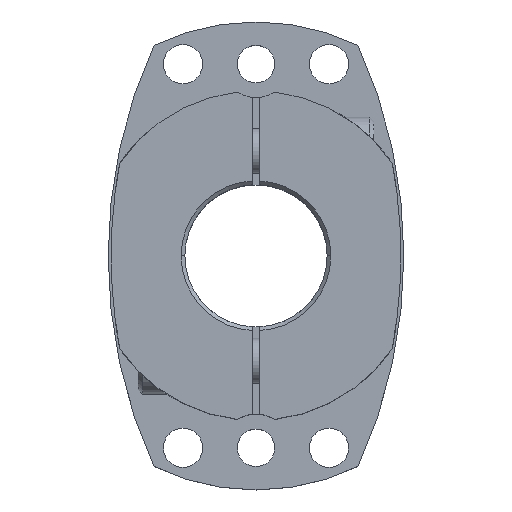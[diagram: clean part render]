
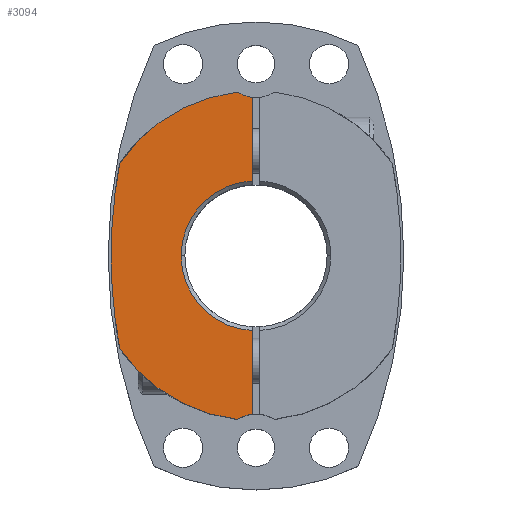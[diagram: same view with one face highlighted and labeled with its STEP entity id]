
A CAD part, top view. The second image highlights one B-rep face of the part: STEP entity #3094.
In plain terms, the highlighted planar face has unit normal (0, 0, 1).
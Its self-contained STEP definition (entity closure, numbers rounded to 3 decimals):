
#412=CARTESIAN_POINT('',(-20.,0.,36.0));
#413=VERTEX_POINT('',#412);
#421=CARTESIAN_POINT('',(-1.,19.975,36.0));
#422=VERTEX_POINT('',#421);
#436=CARTESIAN_POINT('',(0.,0.,36.0));
#437=DIRECTION('',(0.0,0.0,1.0));
#438=DIRECTION('',(-1.0,0.0,0.0));
#439=AXIS2_PLACEMENT_3D('',#436,#437,#438);
#440=CIRCLE('',#439,20.0);
#441=EDGE_CURVE('',#422,#413,#440,.T.);
#451=CARTESIAN_POINT('',(-38.7,0.,36.0));
#452=VERTEX_POINT('',#451);
#461=CARTESIAN_POINT('',(-36.405,24.712,36.0));
#462=VERTEX_POINT('',#461);
#463=CARTESIAN_POINT('',(95.5,0.,36.0));
#464=DIRECTION('',(0.0,0.0,-1.0));
#465=DIRECTION('',(1.0,0.0,0.0));
#466=AXIS2_PLACEMENT_3D('',#463,#464,#465);
#467=CIRCLE('',#466,134.2);
#468=EDGE_CURVE('',#452,#462,#467,.T.);
#2005=CARTESIAN_POINT('',(-4.933,-43.723,36.0));
#2006=VERTEX_POINT('',#2005);
#2013=CARTESIAN_POINT('',(-36.405,-24.712,36.0));
#2014=VERTEX_POINT('',#2013);
#2015=CARTESIAN_POINT('',(0.,0.,36.0));
#2016=DIRECTION('',(0.0,0.0,-1.0));
#2017=DIRECTION('',(1.0,0.0,0.0));
#2018=AXIS2_PLACEMENT_3D('',#2015,#2016,#2017);
#2019=CIRCLE('',#2018,44.);
#2020=EDGE_CURVE('',#2006,#2014,#2019,.T.);
#2654=CARTESIAN_POINT('',(95.5,0.,36.0));
#2655=DIRECTION('',(0.0,0.0,-1.0));
#2656=DIRECTION('',(1.0,0.0,0.0));
#2657=AXIS2_PLACEMENT_3D('',#2654,#2655,#2656);
#2658=CIRCLE('',#2657,134.2);
#2659=EDGE_CURVE('',#2014,#452,#2658,.T.);
#2704=CARTESIAN_POINT('',(-1.,42.306,36.0));
#2705=VERTEX_POINT('',#2704);
#2721=CARTESIAN_POINT('',(-4.933,43.723,36.0));
#2722=VERTEX_POINT('',#2721);
#2729=CARTESIAN_POINT('',(0.,51.25,36.0));
#2730=DIRECTION('',(0.0,0.0,-1.0));
#2731=DIRECTION('',(1.0,0.0,0.0));
#2732=AXIS2_PLACEMENT_3D('',#2729,#2730,#2731);
#2733=CIRCLE('',#2732,9.0);
#2734=EDGE_CURVE('',#2705,#2722,#2733,.T.);
#2796=CARTESIAN_POINT('',(-1.,-42.306,36.0));
#2797=VERTEX_POINT('',#2796);
#2804=CARTESIAN_POINT('',(0.,-51.25,36.0));
#2805=DIRECTION('',(0.0,0.0,-1.0));
#2806=DIRECTION('',(1.0,0.0,0.0));
#2807=AXIS2_PLACEMENT_3D('',#2804,#2805,#2806);
#2808=CIRCLE('',#2807,9.0);
#2809=EDGE_CURVE('',#2006,#2797,#2808,.T.);
#2928=CARTESIAN_POINT('',(-1.,19.975,36.0));
#2929=DIRECTION('',(0.0,1.0,0.0));
#2930=VECTOR('',#2929,22.331);
#2931=LINE('',#2928,#2930);
#2932=EDGE_CURVE('',#422,#2705,#2931,.T.);
#3058=CARTESIAN_POINT('',(0.,0.,36.0));
#3059=DIRECTION('',(0.0,0.0,1.0));
#3060=DIRECTION('',(1.0,0.0,0.0));
#3061=AXIS2_PLACEMENT_3D('',#3058,#3059,#3060);
#3062=PLANE('',#3061);
#3063=ORIENTED_EDGE('',*,*,#2734,.T.);
#3064=CARTESIAN_POINT('',(0.,0.,36.0));
#3065=DIRECTION('',(0.0,0.0,-1.0));
#3066=DIRECTION('',(1.0,0.0,0.0));
#3067=AXIS2_PLACEMENT_3D('',#3064,#3065,#3066);
#3068=CIRCLE('',#3067,44.);
#3069=EDGE_CURVE('',#462,#2722,#3068,.T.);
#3070=ORIENTED_EDGE('',*,*,#3069,.F.);
#3071=ORIENTED_EDGE('',*,*,#468,.F.);
#3072=ORIENTED_EDGE('',*,*,#2659,.F.);
#3073=ORIENTED_EDGE('',*,*,#2020,.F.);
#3074=ORIENTED_EDGE('',*,*,#2809,.T.);
#3075=CARTESIAN_POINT('',(-1.,-19.975,36.0));
#3076=VERTEX_POINT('',#3075);
#3077=CARTESIAN_POINT('',(-1.,-42.306,36.0));
#3078=DIRECTION('',(0.0,1.0,0.0));
#3079=VECTOR('',#3078,22.331);
#3080=LINE('',#3077,#3079);
#3081=EDGE_CURVE('',#2797,#3076,#3080,.T.);
#3082=ORIENTED_EDGE('',*,*,#3081,.T.);
#3083=CARTESIAN_POINT('',(0.,0.,36.0));
#3084=DIRECTION('',(0.0,0.0,1.0));
#3085=DIRECTION('',(-1.0,0.0,0.0));
#3086=AXIS2_PLACEMENT_3D('',#3083,#3084,#3085);
#3087=CIRCLE('',#3086,20.0);
#3088=EDGE_CURVE('',#413,#3076,#3087,.T.);
#3089=ORIENTED_EDGE('',*,*,#3088,.F.);
#3090=ORIENTED_EDGE('',*,*,#441,.F.);
#3091=ORIENTED_EDGE('',*,*,#2932,.T.);
#3092=EDGE_LOOP('',(#3063,#3070,#3071,#3072,#3073,#3074,#3082,#3089,#3090,#3091));
#3093=FACE_OUTER_BOUND('',#3092,.T.);
#3094=ADVANCED_FACE('',(#3093),#3062,.T.);
